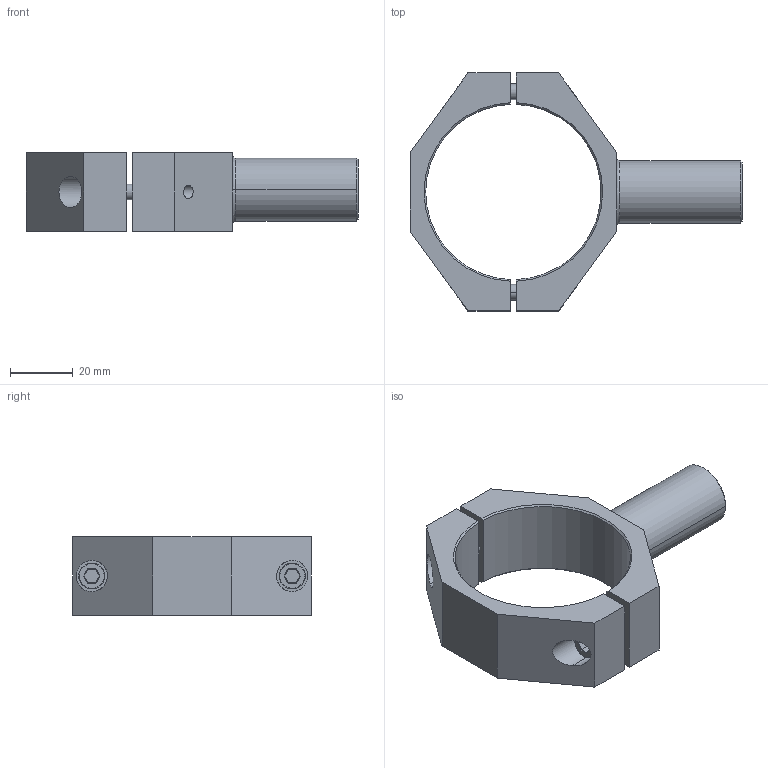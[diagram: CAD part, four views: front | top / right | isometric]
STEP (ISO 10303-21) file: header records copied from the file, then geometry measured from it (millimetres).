
FILE_DESCRIPTION (( 'STEP AP203' ), '1' );
FILE_NAME ('7.Y006931.STEP', '2024-08-13T06:04:11', ( '微软用户' ), ( '微软中国' ), 'SwSTEP 2.0', 'SolidWorks 2018', '' );
FILE_SCHEMA (( 'CONFIG_CONTROL_DESIGN' ));
Length unit declared in the file: millimetre
Products named in the file (3): 2.Y01839; PTC-M5L22; 7.Y006931
Assembly tree (3 placements, depth 2):
  7.Y006931
    2.Y01839
    PTC-M5L22  x2
Bounding box: 106 x 76 x 25 mm (x, y, z)
Volume: 42568.4 mm3; surface area: 20974.1 mm2
Topology: 4 solids, 4 shells, 104 faces, 242 edges, 154 vertices
Faces by surface type: plane 54, cylinder 27, cone 17, bspline 6
Entity records: 2656 total; most frequent: CARTESIAN_POINT 501, DIRECTION 391, ORIENTED_EDGE 372, EDGE_CURVE 186, AXIS2_PLACEMENT_3D 142, VERTEX_POINT 120, LINE 107, VECTOR 107
